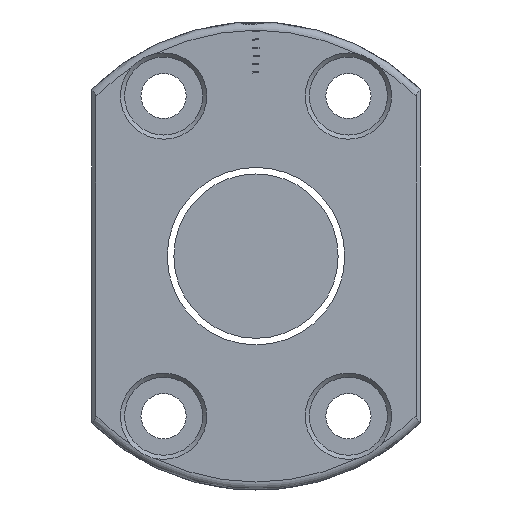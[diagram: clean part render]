
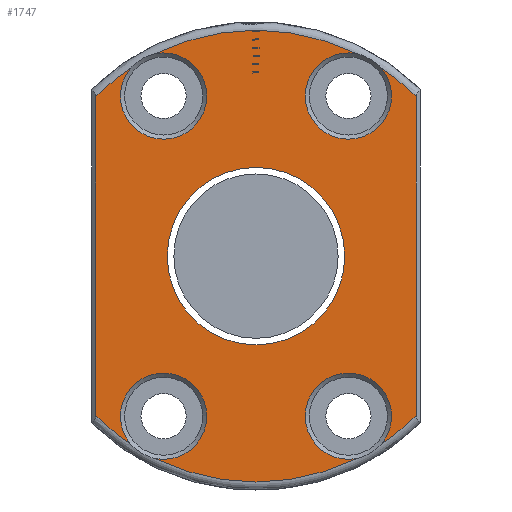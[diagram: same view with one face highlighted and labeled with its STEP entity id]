
A CAD part, left-side view. The second image highlights one B-rep face of the part: STEP entity #1747.
In plain terms, the highlighted planar face has unit normal (-1, 0, 0).
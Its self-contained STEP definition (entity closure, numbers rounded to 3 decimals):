
#1 = CARTESIAN_POINT ( 'NONE',  ( -46., 0., 0. ) ) ;
#21 = ORIENTED_EDGE ( 'NONE', *, *, #413, .T. ) ;
#24 = CARTESIAN_POINT ( 'NONE',  ( -46., 28.5, 0. ) ) ;
#140 = CARTESIAN_POINT ( 'NONE',  ( -46., -19.5, -19.391 ) ) ;
#149 = EDGE_CURVE ( 'NONE', #595, #595, #3182, .T. ) ;
#162 = AXIS2_PLACEMENT_3D ( 'NONE', #2900, #390, #893 ) ;
#189 = CARTESIAN_POINT ( 'NONE',  ( -46., -11.25, 19.486 ) ) ;
#192 = CARTESIAN_POINT ( 'NONE',  ( -46., -12.19, -24.651 ) ) ;
#196 = LINE ( 'NONE', #2407, #1089 ) ;
#215 = AXIS2_PLACEMENT_3D ( 'NONE', #24, #1530, #3206 ) ;
#233 = VERTEX_POINT ( 'NONE', #3153 ) ;
#249 = EDGE_CURVE ( 'NONE', #1012, #1583, #1877, .T. ) ;
#338 = DIRECTION ( 'NONE',  ( 1., 0., 0. ) ) ;
#384 = EDGE_LOOP ( 'NONE', ( #605 ) ) ;
#390 = DIRECTION ( 'NONE',  ( -1., 0., 0. ) ) ;
#393 = EDGE_CURVE ( 'NONE', #1583, #2354, #2352, .T. ) ;
#413 = EDGE_CURVE ( 'NONE', #1338, #1131, #1756, .T. ) ;
#420 = DIRECTION ( 'NONE',  ( 1., 0., 0. ) ) ;
#477 = AXIS2_PLACEMENT_3D ( 'NONE', #497, #2535, #757 ) ;
#497 = CARTESIAN_POINT ( 'NONE',  ( -46., 0., 0. ) ) ;
#508 = VERTEX_POINT ( 'NONE', #2269 ) ;
#517 = DIRECTION ( 'NONE',  ( 0., 0., 1. ) ) ;
#524 = AXIS2_PLACEMENT_3D ( 'NONE', #2108, #2412, #1163 ) ;
#585 = CARTESIAN_POINT ( 'NONE',  ( -46., 0., 0. ) ) ;
#595 = VERTEX_POINT ( 'NONE', #3087 ) ;
#605 = ORIENTED_EDGE ( 'NONE', *, *, #149, .T. ) ;
#687 = CARTESIAN_POINT ( 'NONE',  ( -46., 0., 0. ) ) ;
#710 = CARTESIAN_POINT ( 'NONE',  ( -46., 19.5, 19.391 ) ) ;
#757 = DIRECTION ( 'NONE',  ( 0., 0., 1. ) ) ;
#787 = EDGE_CURVE ( 'NONE', #233, #1012, #3185, .T. ) ;
#797 = DIRECTION ( 'NONE',  ( -1., 0., 0. ) ) ;
#809 = DIRECTION ( 'NONE',  ( 0., 0., -1. ) ) ;
#833 = CIRCLE ( 'NONE', #477, 27.5 ) ;
#867 = VERTEX_POINT ( 'NONE', #1869 ) ;
#893 = DIRECTION ( 'NONE',  ( 0., 0., 1. ) ) ;
#979 = ORIENTED_EDGE ( 'NONE', *, *, #2413, .T. ) ;
#995 = CARTESIAN_POINT ( 'NONE',  ( -46., -15.253, 22.882 ) ) ;
#1012 = VERTEX_POINT ( 'NONE', #192 ) ;
#1089 = VECTOR ( 'NONE', #2191, 1000. ) ;
#1131 = VERTEX_POINT ( 'NONE', #2247 ) ;
#1136 = DIRECTION ( 'NONE',  ( -1., 0., 0. ) ) ;
#1163 = DIRECTION ( 'NONE',  ( 0., 0., 1. ) ) ;
#1254 = DIRECTION ( 'NONE',  ( 0., 0., 1. ) ) ;
#1293 = DIRECTION ( 'NONE',  ( -1., 0., 0. ) ) ;
#1296 = VERTEX_POINT ( 'NONE', #1449 ) ;
#1338 = VERTEX_POINT ( 'NONE', #710 ) ;
#1356 = AXIS2_PLACEMENT_3D ( 'NONE', #687, #1678, #3159 ) ;
#1449 = CARTESIAN_POINT ( 'NONE',  ( -46., 15.253, -22.882 ) ) ;
#1454 = DIRECTION ( 'NONE',  ( 0., 0., 1. ) ) ;
#1468 = CARTESIAN_POINT ( 'NONE',  ( -46., 0., 0. ) ) ;
#1478 = EDGE_CURVE ( 'NONE', #1131, #1296, #1722, .T. ) ;
#1497 = EDGE_CURVE ( 'NONE', #1885, #2829, #2463, .T. ) ;
#1524 = AXIS2_PLACEMENT_3D ( 'NONE', #1963, #2272, #1744 ) ;
#1530 = DIRECTION ( 'NONE',  ( -1., 0., 0. ) ) ;
#1537 = CARTESIAN_POINT ( 'NONE',  ( -46., 19.5, -20.304 ) ) ;
#1558 = ORIENTED_EDGE ( 'NONE', *, *, #1497, .T. ) ;
#1583 = VERTEX_POINT ( 'NONE', #2462 ) ;
#1618 = AXIS2_PLACEMENT_3D ( 'NONE', #2100, #1136, #2367 ) ;
#1678 = DIRECTION ( 'NONE',  ( -1., 0., 0. ) ) ;
#1722 = CIRCLE ( 'NONE', #1356, 27.5 ) ;
#1736 = ORIENTED_EDGE ( 'NONE', *, *, #1930, .T. ) ;
#1744 = DIRECTION ( 'NONE',  ( 0., 0., 1. ) ) ;
#1747 = ADVANCED_FACE ( 'NONE', ( #1762, #2707 ), #2775, .T. ) ;
#1756 = LINE ( 'NONE', #1537, #1986 ) ;
#1762 = FACE_OUTER_BOUND ( 'NONE', #1798, .T. ) ;
#1798 = EDGE_LOOP ( 'NONE', ( #1736, #979, #1558, #2754, #2593, #1874, #21, #2074, #2164, #2729, #2105, #2260 ) ) ;
#1817 = EDGE_CURVE ( 'NONE', #2829, #508, #833, .T. ) ;
#1824 = AXIS2_PLACEMENT_3D ( 'NONE', #189, #420, #1454 ) ;
#1869 = CARTESIAN_POINT ( 'NONE',  ( -46., 15.253, 22.882 ) ) ;
#1874 = ORIENTED_EDGE ( 'NONE', *, *, #2126, .T. ) ;
#1877 = CIRCLE ( 'NONE', #524, 5.25 ) ;
#1885 = VERTEX_POINT ( 'NONE', #995 ) ;
#1886 = CIRCLE ( 'NONE', #2358, 5.25 ) ;
#1930 = EDGE_CURVE ( 'NONE', #2354, #3186, #196, .T. ) ;
#1940 = CIRCLE ( 'NONE', #1524, 5.25 ) ;
#1963 = CARTESIAN_POINT ( 'NONE',  ( -46., 11.25, 19.486 ) ) ;
#1974 = DIRECTION ( 'NONE',  ( 1., 0., 0. ) ) ;
#1986 = VECTOR ( 'NONE', #2056, 1000. ) ;
#1990 = EDGE_CURVE ( 'NONE', #508, #867, #1940, .T. ) ;
#2056 = DIRECTION ( 'NONE',  ( 0., 0., -1. ) ) ;
#2074 = ORIENTED_EDGE ( 'NONE', *, *, #1478, .T. ) ;
#2092 = CIRCLE ( 'NONE', #162, 27.5 ) ;
#2100 = CARTESIAN_POINT ( 'NONE',  ( -46., 0., 0. ) ) ;
#2105 = ORIENTED_EDGE ( 'NONE', *, *, #249, .T. ) ;
#2108 = CARTESIAN_POINT ( 'NONE',  ( -46., -11.25, -19.486 ) ) ;
#2126 = EDGE_CURVE ( 'NONE', #867, #1338, #3193, .T. ) ;
#2164 = ORIENTED_EDGE ( 'NONE', *, *, #2579, .T. ) ;
#2191 = DIRECTION ( 'NONE',  ( 0., 0., 1. ) ) ;
#2245 = AXIS2_PLACEMENT_3D ( 'NONE', #1, #1293, #1254 ) ;
#2247 = CARTESIAN_POINT ( 'NONE',  ( -46., 19.5, -19.391 ) ) ;
#2260 = ORIENTED_EDGE ( 'NONE', *, *, #393, .T. ) ;
#2269 = CARTESIAN_POINT ( 'NONE',  ( -46., 12.19, 24.651 ) ) ;
#2272 = DIRECTION ( 'NONE',  ( 1., 0., 0. ) ) ;
#2352 = CIRCLE ( 'NONE', #2245, 27.5 ) ;
#2354 = VERTEX_POINT ( 'NONE', #140 ) ;
#2358 = AXIS2_PLACEMENT_3D ( 'NONE', #3199, #1974, #517 ) ;
#2367 = DIRECTION ( 'NONE',  ( 0., 0., 1. ) ) ;
#2404 = CARTESIAN_POINT ( 'NONE',  ( -46., -12.19, 24.651 ) ) ;
#2407 = CARTESIAN_POINT ( 'NONE',  ( -46., -19.5, 20.304 ) ) ;
#2412 = DIRECTION ( 'NONE',  ( 1., 0., 0. ) ) ;
#2413 = EDGE_CURVE ( 'NONE', #3186, #1885, #2092, .T. ) ;
#2462 = CARTESIAN_POINT ( 'NONE',  ( -46., -15.253, -22.882 ) ) ;
#2463 = CIRCLE ( 'NONE', #1824, 5.25 ) ;
#2535 = DIRECTION ( 'NONE',  ( -1., 0., 0. ) ) ;
#2579 = EDGE_CURVE ( 'NONE', #1296, #233, #1886, .T. ) ;
#2593 = ORIENTED_EDGE ( 'NONE', *, *, #1990, .T. ) ;
#2707 = FACE_BOUND ( 'NONE', #384, .T. ) ;
#2729 = ORIENTED_EDGE ( 'NONE', *, *, #787, .T. ) ;
#2754 = ORIENTED_EDGE ( 'NONE', *, *, #1817, .T. ) ;
#2775 = PLANE ( 'NONE',  #215 ) ;
#2785 = DIRECTION ( 'NONE',  ( 0., 0., 1. ) ) ;
#2829 = VERTEX_POINT ( 'NONE', #2404 ) ;
#2900 = CARTESIAN_POINT ( 'NONE',  ( -46., 0., 0. ) ) ;
#2985 = AXIS2_PLACEMENT_3D ( 'NONE', #585, #797, #2785 ) ;
#3024 = AXIS2_PLACEMENT_3D ( 'NONE', #1468, #338, #809 ) ;
#3087 = CARTESIAN_POINT ( 'NONE',  ( -46., 0., -10.8 ) ) ;
#3153 = CARTESIAN_POINT ( 'NONE',  ( -46., 12.19, -24.651 ) ) ;
#3159 = DIRECTION ( 'NONE',  ( 0., 0., 1. ) ) ;
#3182 = CIRCLE ( 'NONE', #3024, 10.8 ) ;
#3185 = CIRCLE ( 'NONE', #1618, 27.5 ) ;
#3186 = VERTEX_POINT ( 'NONE', #3212 ) ;
#3193 = CIRCLE ( 'NONE', #2985, 27.5 ) ;
#3199 = CARTESIAN_POINT ( 'NONE',  ( -46., 11.25, -19.486 ) ) ;
#3206 = DIRECTION ( 'NONE',  ( 0., 0., 1. ) ) ;
#3212 = CARTESIAN_POINT ( 'NONE',  ( -46., -19.5, 19.391 ) ) ;
